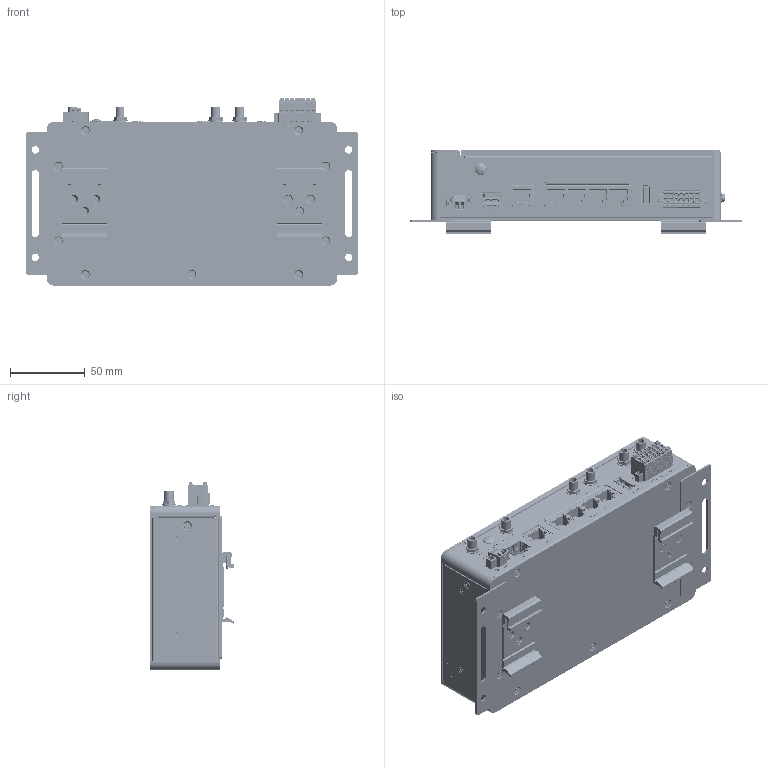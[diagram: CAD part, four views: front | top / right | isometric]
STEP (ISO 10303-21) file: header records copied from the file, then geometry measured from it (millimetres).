
FILE_DESCRIPTION (( 'STEP AP214' ), '1' );
FILE_NAME ('ICR-4461(W).STEP', '2023-02-27T11:04:22', ( 'user' ), ( '' ), 'SwSTEP 2.0', 'SolidWorks 2022', '' );
FILE_SCHEMA (( 'AUTOMOTIVE_DESIGN' ));
Length unit declared in the file: millimetre
Products named in the file (49): 1990033157N000_Thermal pad46x30,T=1.5 k4^ICR-4461(W)(2)_ICR-4461(W)_Výchozí; lightpipe assembly_ICR-4000^ICR-4461(W)(2)_ICR-4461(W)_Výchozí; Back cover_ICR-4000^ICR-4461(W)(2)_ICR-4461(W)_Výchozí; Tray_ICR-4000^ICR-4461(W)(2)_ICR-4461(W)_Výchozí; 1935130610_默认^ICR-4461(W)(2)_ICR-4461(W)_Výchozí; Bottom cover_ICR-4000^ICR-4461(W)(2)_ICR-4461(W)_Výchozí; Thermal pad 44x29 t=2mm;K6^ICR-4461(W)(2)_ICR-4461(W)_Výchozí; 20210415(tray).pptx^lightpipe assy_lightpipe assembly_ICR-4000_ICR-4461(W)(2)_ICR-4461(W)_Výchozí; Thermal pad 14x9 T=2.5mm,K=6^ICR-4461(W)(2)_ICR-4461(W)_Výchozí; 19310305C0_默认^ICR-4461(W)(2)_ICR-4461(W)_Výchozí; Top Cover_ICR-4000^ICR-4461(W)(2)_ICR-4461(W)_Výchozí; 20210415.pptx^lightpipe assy_lightpipe assembly_ICR-4000_ICR-4461(W)(2)_ICR-4461(W)_Výchozí; Copy (2) of Copy of 19310305C0_默认^ICR-4461(W)_Výchozí; 691364100002(2)^_ICR-4461(W)_Výchozí; Copy (3) of Copy of 19310305C0_默认^ICR-4461(W)_Výchozí; ^ICR-4461(W)_Výchozí; sim cover_ICR-4000^ICR-4461(W)(2)_ICR-4461(W)_Výchozí; Copy (5) of Copy of 19310305C0_默认^ICR-4461(W)_Výchozí; 6913641000xx_VIS Flange(2)^_ICR-4461(W)_Výchozí; Wall Bracket_ICR-4000^ICR-4461(W)(2)_ICR-4461(W)_Výchozí; 1930004041-11_默认^ICR-4461(W)(2)_ICR-4461(W)_Výchozí; 1930001782_S_S D=5 FH=120+M2.5X5L ST BZn_默认^ICR-4461(W)(2)_ICR-4461(W)_Výchozí; 1930005199_默认^ICR-4461(W)(2)_ICR-4461(W)_Výchozí; Front cover_ICR-4000_ICR-4461(W)_ICR-4461W(S)_ICR-4461W3(S)^ICR-4461(W)(2)_ICR-4461(W)_Výchozí; B-ICR44xx-4.a_3D-2021-02-05^ICR-4461(W)(2)_ICR-4461(W)_Výchozí; DINKLE_0159-0114_2.STEP_Výchozí; Thermal pad 17x17 t=1.5mm;k6^ICR-4461(W)(2)_ICR-4461(W)_Výchozí; led lightpipe^lightpipe assembly_ICR-4000_ICR-4461(W)(2)_ICR-4461(W)_Výchozí; 691364100002_M(2)^_ICR-4461(W)_Výchozí; ADVANTECH Label_ICR-4000^ICR-4461(W)(2)_ICR-4461(W)_Výchozí; DINKLE_0159-01XX.STEP_Výchozí; ICR-4461(W); ICR-4461(W)(2)^ICR-4461(W)_Výchozí; DINKLE_0159-01XX_3.STEP_Výchozí; lightpipe assy^lightpipe assembly_ICR-4000_ICR-4461(W)(2)_ICR-4461(W)_Výchozí; 1930000741-11_默认^ICR-4461(W)(2)_ICR-4461(W)_Výchozí; 1700004434._默认^ICR-4461(W)(2)_ICR-4461(W)_Výchozí; BB-DIN-ICR32_Výchozí; Mini pccie Heat sink_ICR-4000^ICR-4461(W)(2)_ICR-4461(W)_Výchozí; PLG_SMA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
Assembly tree (92 placements, depth 5):
  ICR-4461(W)
    ICR-4461(W)(2)^ICR-4461(W)_Výchozí
      lightpipe assembly_ICR-4000^ICR-4461(W)(2)_ICR-4461(W)_Výchozí
        lightpipe assy^lightpipe assembly_ICR-4000_ICR-4461(W)(2)_ICR-4461(W)_Výchozí
          20210415(tray).pptx^lightpipe assy_lightpipe assembly_ICR-4000_ICR-4461(W)(2)_ICR-4461(W)_Výchozí
          20210415.pptx^lightpipe assy_lightpipe assembly_ICR-4000_ICR-4461(W)(2)_ICR-4461(W)_Výchozí
        led lightpipe^lightpipe assembly_ICR-4000_ICR-4461(W)(2)_ICR-4461(W)_Výchozí
        lightpipe tray_ICR-4000^lightpipe assembly_ICR-4000_ICR-4461(W)(2)_ICR-4461(W)_Výchozí
      Top Cover_ICR-4000^ICR-4461(W)(2)_ICR-4461(W)_Výchozí
      CPU Heat sink_ICR-4000^ICR-4461(W)(2)_ICR-4461(W)_Výchozí
      Mini pccie Heat sink_ICR-4000^ICR-4461(W)(2)_ICR-4461(W)_Výchozí
      Front cover_ICR-4000_ICR-4461(W)_ICR-4461W(S)_ICR-4461W3(S)^ICR-4461(W)(2)_ICR-4461(W)_Výchozí
      Back cover_ICR-4000^ICR-4461(W)(2)_ICR-4461(W)_Výchozí
      Bottom cover_ICR-4000^ICR-4461(W)(2)_ICR-4461(W)_Výchozí
      sim cover_ICR-4000^ICR-4461(W)(2)_ICR-4461(W)_Výchozí
      1930001782_S_S D=5 FH=120+M2.5X5L ST BZn_默认^ICR-4461(W)(2)_ICR-4461(W)_Výchozí
      Tray_ICR-4000^ICR-4461(W)(2)_ICR-4461(W)_Výchozí
      Wall Bracket_ICR-4000^ICR-4461(W)(2)_ICR-4461(W)_Výchozí  x2
      1700004434._默认^ICR-4461(W)(2)_ICR-4461(W)_Výchozí  x6
      ADVANTECH Label_ICR-4000^ICR-4461(W)(2)_ICR-4461(W)_Výchozí
      1930003479_默认^ICR-4461(W)(2)_ICR-4461(W)_Výchozí  x10
      19310305C0_默认^ICR-4461(W)(2)_ICR-4461(W)_Výchozí  x4
      1930005199_默认^ICR-4461(W)(2)_ICR-4461(W)_Výchozí  x2
      1930000741-11_默认^ICR-4461(W)(2)_ICR-4461(W)_Výchozí  x4
      1930008006_M3 TORX Screw^ICR-4461(W)(2)_ICR-4461(W)_Výchozí  x9
      1930004041-11_默认^ICR-4461(W)(2)_ICR-4461(W)_Výchozí  x6
      Thermal pad 14x9 T=2.5mm,K=6^ICR-4461(W)(2)_ICR-4461(W)_Výchozí  x2
      Thermal pad 17x17 t=1.5mm;k6^ICR-4461(W)(2)_ICR-4461(W)_Výchozí
      Thermal pad 44x29 t=2mm;K6^ICR-4461(W)(2)_ICR-4461(W)_Výchozí
      1990033157N000_Thermal pad46x30,T=1.5 k4^ICR-4461(W)(2)_ICR-4461(W)_Výchozí
      Nameplate^ICR-4461(W)(2)_ICR-4461(W)_Výchozí
      1935130610_默认^ICR-4461(W)(2)_ICR-4461(W)_Výchozí
      B-ICR44xx-4.a_3D-2021-02-05^ICR-4461(W)(2)_ICR-4461(W)_Výchozí
    dinkle_0159-0114.STEP_Výchozí
      DINKLE_0159-0114_2.STEP_Výchozí
      DINKLE_0159-01XX_3.STEP_Výchozí
      DINKLE_0159-01XX.STEP_Výchozí
    Copy (2) of Copy of 19310305C0_默认^ICR-4461(W)_Výchozí  x2
    Copy (3) of Copy of 19310305C0_默认^ICR-4461(W)_Výchozí  x2
    Copy (5) of Copy of 19310305C0_默认^ICR-4461(W)_Výchozí  x2
    BB-DIN-ICR32_Výchozí  x2
    ^ICR-4461(W)_Výchozí
      691364100002_M(2)^_ICR-4461(W)_Výchozí
      6913641000xx_CAGE(2)^_ICR-4461(W)_Výchozí  x2
      6913641000xx_VIS(2)^_ICR-4461(W)_Výchozí  x2
      6913641000xx_PIN(2)^_ICR-4461(W)_Výchozí  x2
      6913641000xx_VIS Flange(2)^_ICR-4461(W)_Výchozí  x2
      691364100002(2)^_ICR-4461(W)_Výchozí
    PLG_SMA
Bounding box: 222.7 x 56 x 125.64 mm (x, y, z)
Volume: 425537.3 mm3; surface area: 451771.5 mm2
Topology: 2210 solids, 2210 shells, 36725 faces, 91544 edges, 59873 vertices
Faces by surface type: plane 28301, cylinder 6316, bspline 1300, cone 380, torus 297, sphere 131
Entity records: 1136329 total; most frequent: CARTESIAN_POINT 272856, ORIENTED_EDGE 175972, DIRECTION 162372, EDGE_CURVE 87986, VECTOR 71736, LINE 71736, VERTEX_POINT 57719, AXIS2_PLACEMENT_3D 45318
